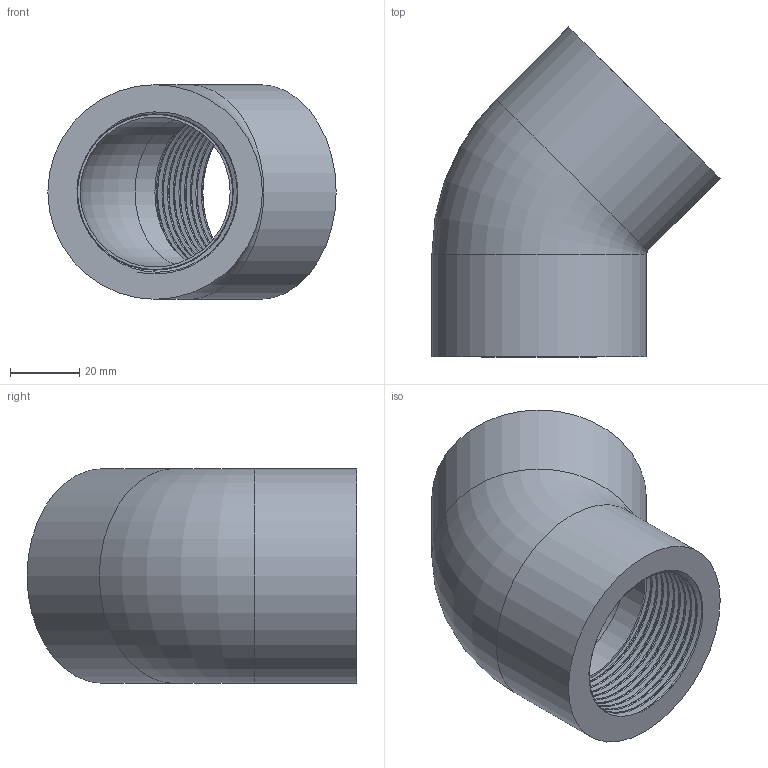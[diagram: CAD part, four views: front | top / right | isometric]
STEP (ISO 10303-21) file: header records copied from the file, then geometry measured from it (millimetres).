
FILE_DESCRIPTION(/* description */ ('PVC gomito a 45° incollaggio metrico'),/* implementation_level */ '2;1');
FILE_NAME(/* name */ 'C:\Users\POLYPIPE\Desktop\DATASET INVENTOR\LIBRERIA EFFAST\RACCORDI 3DxWEB\RER\3D_RERGYE\3D_RERGYE050F.stp',/* time_stamp */ '2018-01-19T16:34:19+01:00',/* author */ ('POLYPIPE'),/* organization */ ('Polypipe Italia s.r.l.'),/* preprocessor_version */ 'ST-DEVELOPER v16.1',/* originating_system */ 'Autodesk Inventor 2016',/* authorisation */ '');
FILE_SCHEMA (('CONFIG_CONTROL_DESIGN'));
Length unit declared in the file: millimetre
Products named in the file (1): 3D_RERGYE
Bounding box: 83.33 x 95.33 x 62 mm (x, y, z)
Volume: 121314.7 mm3; surface area: 36606.5 mm2
Topology: 1 solids, 1 shells, 24 faces, 50 edges, 30 vertices
Faces by surface type: bspline 10, cylinder 6, plane 6, torus 2
Full cylindrical faces by diameter (mm): 43.345 x2, 44.845 x2, 62 x2
Entity records: 8050 total; most frequent: CARTESIAN_POINT 7595, ORIENTED_EDGE 88, DIRECTION 68, EDGE_CURVE 44, EDGE_LOOP 34, AXIS2_PLACEMENT_3D 31, VERTEX_POINT 30, FACE_OUTER_BOUND 24
